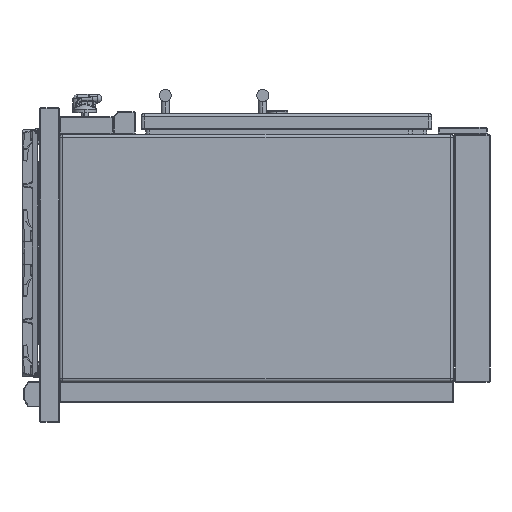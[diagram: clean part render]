
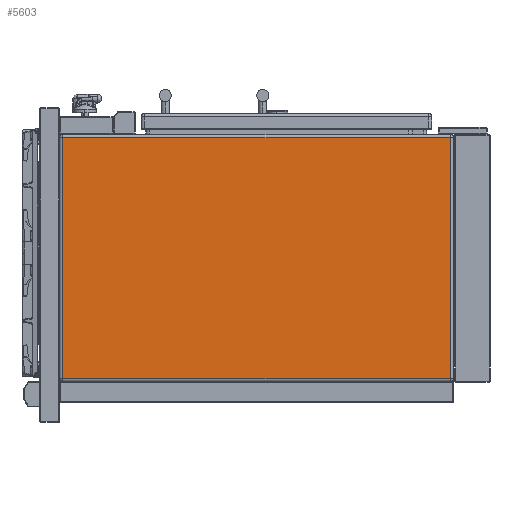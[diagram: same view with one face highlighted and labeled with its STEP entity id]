
A CAD part, left-side view. The second image highlights one B-rep face of the part: STEP entity #5603.
In plain terms, the highlighted planar face has unit normal (-1, 0, 0).
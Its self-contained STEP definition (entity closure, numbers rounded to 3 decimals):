
#1135=DIRECTION('',(0.,1.,0.));
#1136=VECTOR('',#1135,801.);
#1137=CARTESIAN_POINT('',(-700.,82.,249.));
#1138=LINE('',#1137,#1136);
#1139=DIRECTION('',(0.,0.,1.));
#1140=VECTOR('',#1139,498.);
#1141=CARTESIAN_POINT('',(-700.,82.,-249.));
#1142=LINE('',#1141,#1140);
#1143=DIRECTION('',(0.,-1.,0.));
#1144=VECTOR('',#1143,801.);
#1145=CARTESIAN_POINT('',(-700.,883.,-249.));
#1146=LINE('',#1145,#1144);
#1147=DIRECTION('',(0.,0.,-1.));
#1148=VECTOR('',#1147,498.);
#1149=CARTESIAN_POINT('',(-700.,883.,249.));
#1150=LINE('',#1149,#1148);
#3396=CARTESIAN_POINT('',(-700.,82.,249.));
#3397=CARTESIAN_POINT('',(-700.,883.,249.));
#3398=VERTEX_POINT('',#3396);
#3399=VERTEX_POINT('',#3397);
#3400=CARTESIAN_POINT('',(-700.,82.,-249.));
#3401=VERTEX_POINT('',#3400);
#3424=CARTESIAN_POINT('',(-700.,883.,-249.));
#3425=VERTEX_POINT('',#3424);
#5589=CARTESIAN_POINT('',(-700.,0.,0.));
#5590=DIRECTION('',(1.,0.,0.));
#5591=DIRECTION('',(0.,0.,-1.));
#5592=AXIS2_PLACEMENT_3D('',#5589,#5590,#5591);
#5593=PLANE('',#5592);
#5595=ORIENTED_EDGE('',*,*,#5594,.F.);
#5597=ORIENTED_EDGE('',*,*,#5596,.F.);
#5598=ORIENTED_EDGE('',*,*,#5580,.F.);
#5600=ORIENTED_EDGE('',*,*,#5599,.F.);
#5601=EDGE_LOOP('',(#5595,#5597,#5598,#5600));
#5602=FACE_OUTER_BOUND('',#5601,.F.);
#5580=EDGE_CURVE('',#3425,#3401,#1146,.T.);
#5594=EDGE_CURVE('',#3398,#3399,#1138,.T.);
#5596=EDGE_CURVE('',#3401,#3398,#1142,.T.);
#5599=EDGE_CURVE('',#3399,#3425,#1150,.T.);
#5603=ADVANCED_FACE('',(#5602),#5593,.F.);
